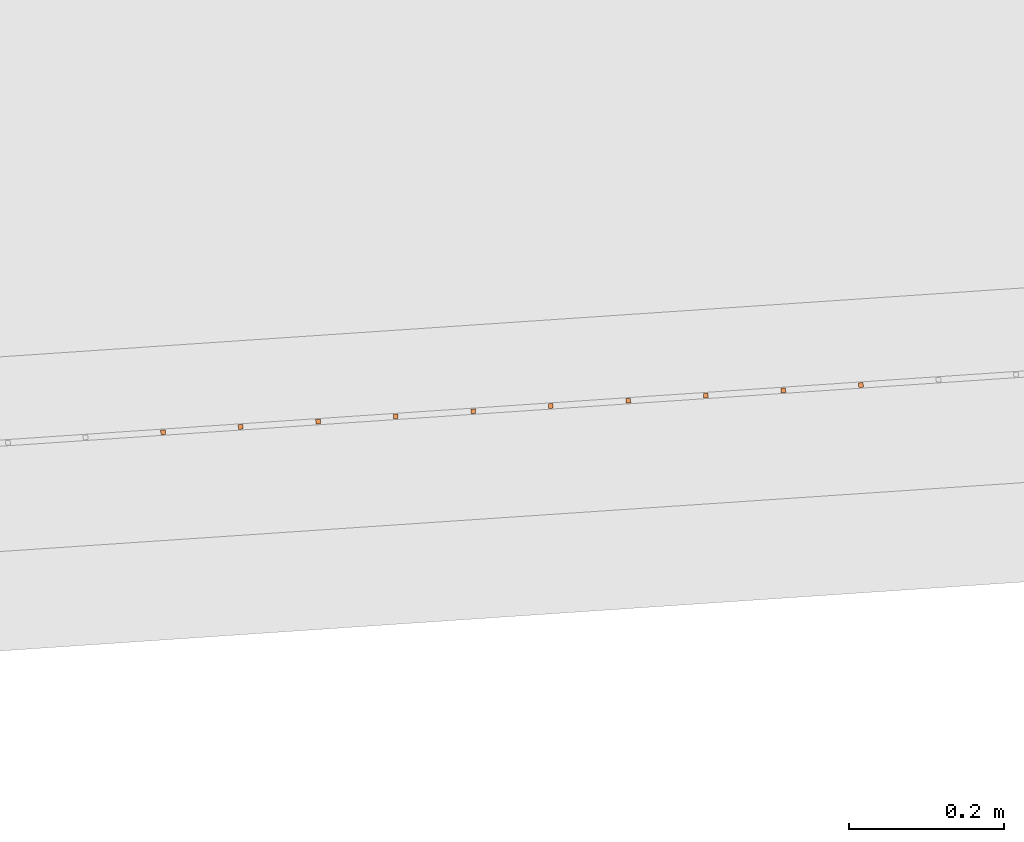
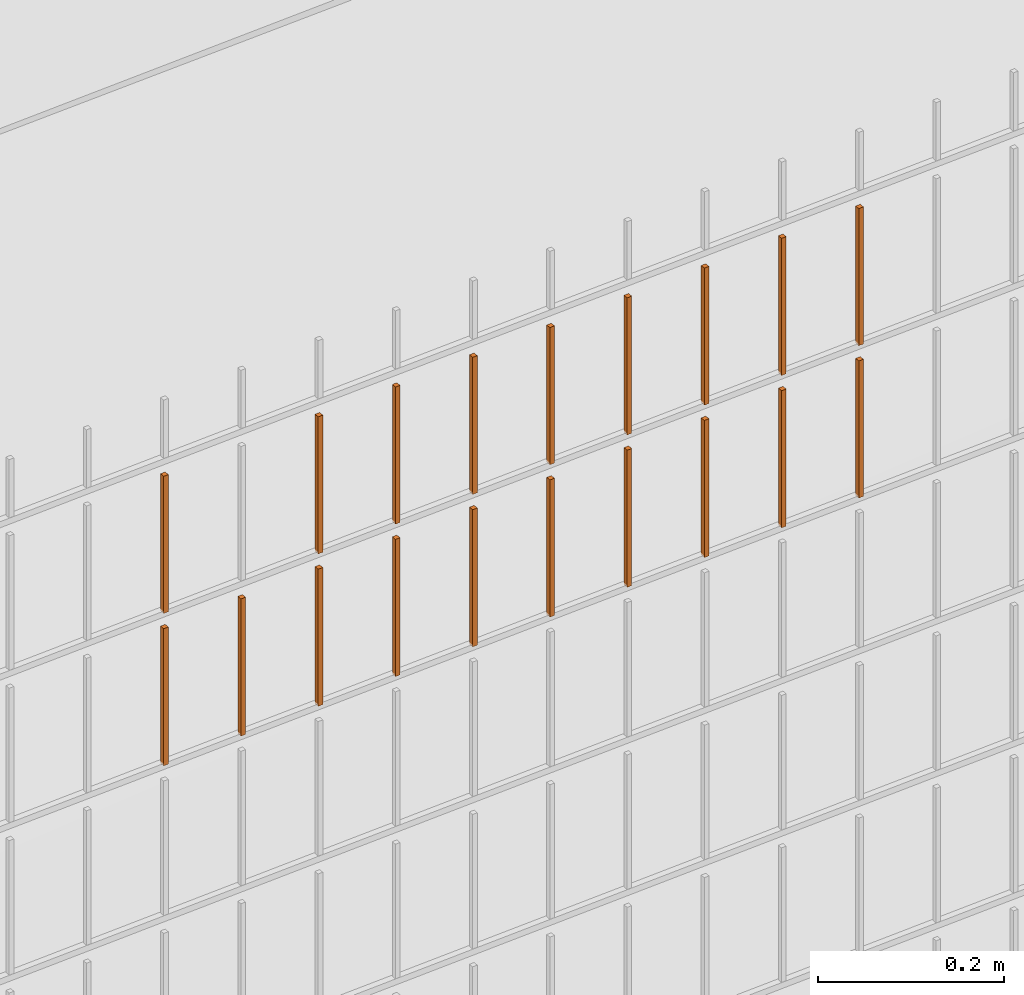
# One storey, part 201 of 1809: 19 proxies, 1 element without a shape of its own.
"""IFC2X3 building model written with IfcOpenShell, lengths in millimetres."""

from ifc_helpers import new_model, entity, si_unit, converted_unit, derived_unit, money_unit, direction, frame, origin_with_axes, place, context, subcontext, project, spatial, faceted_brep, source, transform, mapped, material, type_object, element, aggregate, save


model = new_model("IFC2X3")

# Units and contexts
model_context = context("Model", 3, precision=0.01, world=origin_with_axes(), true_north=direction((0.0, 1.0)))
body_context = subcontext(model_context, "Body", "Model", "MODEL_VIEW")
ifc_project = project(units=[si_unit("LENGTHUNIT", "METRE", prefix="MILLI"), si_unit("AREAUNIT", "SQUARE_METRE"), si_unit("VOLUMEUNIT", "CUBIC_METRE"), converted_unit("PLANEANGLEUNIT", "DEGREE", entity("IfcPlaneAngleMeasure", 0.0174532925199), si_unit("PLANEANGLEUNIT", "RADIAN"), dimensions=[0, 0, 0, 0, 0, 0, 0]), si_unit("SOLIDANGLEUNIT", "STERADIAN"), money_unit("EUR"), converted_unit("TIMEUNIT", "Year", entity("IfcTimeMeasure", 31556926.0), si_unit("TIMEUNIT", "SECOND"), dimensions=[0, 0, 1, 0, 0, 0, 0]), si_unit("MASSUNIT", "GRAM", prefix="KILO"), si_unit("THERMODYNAMICTEMPERATUREUNIT", "DEGREE_CELSIUS"), si_unit("LUMINOUSINTENSITYUNIT", "LUMEN"), si_unit("ENERGYUNIT", "JOULE", prefix="MEGA"), derived_unit("THERMALCONDUCTANCEUNIT", [(si_unit("POWERUNIT", "WATT"), 1), (si_unit("LENGTHUNIT", "METRE"), -1), (si_unit("THERMODYNAMICTEMPERATUREUNIT", "KELVIN"), -1)]), derived_unit("SPECIFICHEATCAPACITYUNIT", [(si_unit("ENERGYUNIT", "JOULE"), 1), (si_unit("MASSUNIT", "GRAM", prefix="KILO"), -1), (si_unit("THERMODYNAMICTEMPERATUREUNIT", "KELVIN"), -1)]), derived_unit("MASSDENSITYUNIT", [(si_unit("MASSUNIT", "GRAM", prefix="KILO"), 1), (si_unit("VOLUMEUNIT", "CUBIC_METRE"), -1)])], contexts=[model_context])

# Site, building, storey
site_placement = place(None, origin_with_axes())
site = spatial("IfcSite", under=ifc_project, at=site_placement, Name="Politse- ja Piirivalveameti ning Päästeameti ühishoone", CompositionType="ELEMENT")
building_placement = place(site_placement, origin_with_axes())
building = spatial("IfcBuilding", under=site, at=building_placement, Name="Politse- ja Piirivalveameti ning Päästeameti ühishoone", CompositionType="ELEMENT")
storey_placement = place(building_placement, origin_with_axes())
storey = spatial("IfcBuildingStorey", under=building, at=storey_placement, Name="Esimene korrus", CompositionType="ELEMENT", Elevation=0.0)

# Proxies
building_element_proxy_type_1 = type_object("IfcBuildingElementProxyType", Name="Railing Type", PredefinedType="NOTDEFINED")
proxy_1_placement = place(storey_placement, frame((89252.001212, -29183.4766571, 203.661247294), z_axis=(0.0, 0.0, 1.0), x_axis=(1.0, 0.0, 0.0)))
proxy_1 = element("IfcBuildingElementProxy", 1, at=proxy_1_placement, inside=storey, type_object=building_element_proxy_type_1, Name="PIIRDEAED")
ifc_material = material(Name="ET-03_Raud")
building_element_proxy_type_2 = type_object("IfcBuildingElementProxyType", Name="IfcBuildingElementProxy", PredefinedType="NOTDEFINED")
shared_shape_1 = source(origin_with_axes(), body_context, "Body", "Brep", [
    faceted_brep([(3.0, 3.0, -0.000752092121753), (-3.0, 3.0, -0.000752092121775), (-3.0, 3.0, 179.99926046), (3.0, 3.0, 179.99926046), (3.0, -3.0, 0.000752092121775), (-3.0, -3.0, 0.000752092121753), (-3.0, -3.0, 180.000764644), (3.0, -3.0, 180.000764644)], [[[0, 1, 2, 3]], [[0, 4, 5, 1]], [[1, 5, 6, 2]], [[3, 2, 6, 7]], [[4, 0, 3, 7]], [[5, 4, 7, 6]]]),
])
proxy_2_placement = place(proxy_1_placement, frame((-66076.1235966, -21760.9675483, 1610.63152875), z_axis=(0.0, 0.0, 1.0), x_axis=(1.0, 0.0, 0.0)))
proxy_2 = element("IfcBuildingElementProxy", 2, at=proxy_2_placement, type_object=building_element_proxy_type_2, material=ifc_material, Name="BALUSTER - 001", context=body_context, shape_type="MappedRepresentation", body=[
    mapped(shared_shape_1, transform((0.0, 0.0, 0.0), x_axis=(-0.0673926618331, 0.997726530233, 0.0), y_axis=(-0.997726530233, -0.0673926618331, 0.0), z_axis=(0.0, 0.0, 1.0))),
])
shared_shape_2 = source(origin_with_axes(), body_context, "Body", "Brep", [
    faceted_brep([(3.0, 3.0, -0.000752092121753), (-3.0, 3.0, -0.000752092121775), (-3.0, 3.0, 179.99926046), (3.0, 3.0, 179.99926046), (3.0, -3.0, 0.000752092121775), (-3.0, -3.0, 0.000752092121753), (-3.0, -3.0, 180.000764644), (3.0, -3.0, 180.000764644)], [[[0, 1, 2, 3]], [[0, 4, 5, 1]], [[1, 5, 6, 2]], [[3, 2, 6, 7]], [[4, 0, 3, 7]], [[5, 4, 7, 6]]]),
])
proxy_3_placement = place(proxy_1_placement, frame((-66076.1235966, -21760.9675483, 1810.63152875), z_axis=(0.0, 0.0, 1.0), x_axis=(1.0, 0.0, 0.0)))
proxy_3 = element("IfcBuildingElementProxy", 3, at=proxy_3_placement, type_object=building_element_proxy_type_2, material=ifc_material, Name="BALUSTER - 001", context=body_context, shape_type="MappedRepresentation", body=[
    mapped(shared_shape_2, transform((0.0, 0.0, 0.0), x_axis=(-0.0673926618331, 0.997726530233, 0.0), y_axis=(-0.997726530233, -0.0673926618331, 0.0), z_axis=(0.0, 0.0, 1.0))),
])
shared_shape_3 = source(origin_with_axes(), body_context, "Body", "Brep", [
    faceted_brep([(3.0, 3.0, -0.000752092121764), (-3.0, 3.0, -0.000752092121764), (-3.0, 3.0, 179.99926046), (3.0, 3.0, 179.99926046), (3.0, -3.0, 0.000752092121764), (-3.0, -3.0, 0.000752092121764), (-3.0, -3.0, 180.000764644), (3.0, -3.0, 180.000764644)], [[[0, 1, 2, 3]], [[0, 4, 5, 1]], [[1, 5, 6, 2]], [[3, 2, 6, 7]], [[4, 0, 3, 7]], [[5, 4, 7, 6]]]),
])
proxy_4_placement = place(proxy_1_placement, frame((-65178.1697194, -21700.3141526, 1810.85715639), z_axis=(0.0, 0.0, 1.0), x_axis=(1.0, 0.0, 0.0)))
proxy_4 = element("IfcBuildingElementProxy", 4, at=proxy_4_placement, type_object=building_element_proxy_type_2, material=ifc_material, Name="BALUSTER - 001", context=body_context, shape_type="MappedRepresentation", body=[
    mapped(shared_shape_3, transform((0.0, 0.0, 0.0), x_axis=(-0.0673926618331, 0.997726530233, 0.0), y_axis=(-0.997726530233, -0.0673926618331, 0.0), z_axis=(0.0, 0.0, 1.0))),
])
proxy_5_placement = place(proxy_1_placement, frame((-65776.8056375, -21740.7497497, 1810.70673797), z_axis=(0.0, 0.0, 1.0), x_axis=(1.0, 0.0, 0.0)))
proxy_5 = element("IfcBuildingElementProxy", 5, at=proxy_5_placement, type_object=building_element_proxy_type_2, material=ifc_material, Name="BALUSTER - 001", context=body_context, shape_type="MappedRepresentation", body=[
    mapped(shared_shape_3, transform((0.0, 0.0, 0.0), x_axis=(-0.0673926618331, 0.997726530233, 0.0), y_axis=(-0.997726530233, -0.0673926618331, 0.0), z_axis=(0.0, 0.0, 1.0))),
])
shared_shape_4 = source(origin_with_axes(), body_context, "Body", "Brep", [
    faceted_brep([(3.0, 3.0, -0.000752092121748), (-3.0, 3.0, -0.00075209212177), (-3.0, 3.0, 179.99926046), (3.0, 3.0, 179.99926046), (3.0, -3.0, 0.00075209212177), (-3.0, -3.0, 0.000752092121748), (-3.0, -3.0, 180.000764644), (3.0, -3.0, 180.000764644)], [[[0, 1, 2, 3]], [[0, 4, 5, 1]], [[1, 5, 6, 2]], [[3, 2, 6, 7]], [[4, 0, 3, 7]], [[5, 4, 7, 6]]]),
])
proxy_6_placement = place(proxy_1_placement, frame((-65377.7150255, -21713.792685, 1810.80701691), z_axis=(0.0, 0.0, 1.0), x_axis=(1.0, 0.0, 0.0)))
proxy_6 = element("IfcBuildingElementProxy", 6, at=proxy_6_placement, type_object=building_element_proxy_type_2, material=ifc_material, Name="BALUSTER - 001", context=body_context, shape_type="MappedRepresentation", body=[
    mapped(shared_shape_4, transform((0.0, 0.0, 0.0), x_axis=(-0.0673926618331, 0.997726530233, 0.0), y_axis=(-0.997726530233, -0.0673926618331, 0.0), z_axis=(0.0, 0.0, 1.0))),
])
proxy_7_placement = place(proxy_1_placement, frame((-65577.2603315, -21727.2712173, 1810.75687744), z_axis=(0.0, 0.0, 1.0), x_axis=(1.0, 0.0, 0.0)))
proxy_7 = element("IfcBuildingElementProxy", 7, at=proxy_7_placement, type_object=building_element_proxy_type_2, material=ifc_material, Name="BALUSTER - 001", context=body_context, shape_type="MappedRepresentation", body=[
    mapped(shared_shape_4, transform((0.0, 0.0, 0.0), x_axis=(-0.0673926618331, 0.997726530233, 0.0), y_axis=(-0.997726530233, -0.0673926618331, 0.0), z_axis=(0.0, 0.0, 1.0))),
])
shared_shape_5 = source(origin_with_axes(), body_context, "Body", "Brep", [
    faceted_brep([(3.0, 3.0, -0.000752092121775), (-3.0, 3.0, -0.000752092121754), (-3.0, 3.0, 179.99926046), (3.0, 3.0, 179.99926046), (3.0, -3.0, 0.000752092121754), (-3.0, -3.0, 0.000752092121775), (-3.0, -3.0, 180.000764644), (3.0, -3.0, 180.000764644)], [[[0, 1, 2, 3]], [[0, 4, 5, 1]], [[1, 5, 6, 2]], [[3, 2, 6, 7]], [[4, 0, 3, 7]], [[5, 4, 7, 6]]]),
])
proxy_8_placement = place(proxy_1_placement, frame((-65876.5782906, -21747.4890159, 1810.68166823), z_axis=(0.0, 0.0, 1.0), x_axis=(1.0, 0.0, 0.0)))
proxy_8 = element("IfcBuildingElementProxy", 8, at=proxy_8_placement, type_object=building_element_proxy_type_2, material=ifc_material, Name="BALUSTER - 001", context=body_context, shape_type="MappedRepresentation", body=[
    mapped(shared_shape_5, transform((0.0, 0.0, 0.0), x_axis=(-0.0673926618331, 0.997726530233, 0.0), y_axis=(-0.997726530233, -0.0673926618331, 0.0), z_axis=(0.0, 0.0, 1.0))),
])
shared_shape_6 = source(origin_with_axes(), body_context, "Body", "Brep", [
    faceted_brep([(3.0, 3.0, -0.000752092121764), (-3.0, 3.0, -0.000752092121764), (-3.0, 3.0, 179.99926046), (3.0, 3.0, 179.99926046), (3.0, -3.0, 0.000752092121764), (-3.0, -3.0, 0.000752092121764), (-3.0, -3.0, 180.000764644), (3.0, -3.0, 180.000764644)], [[[0, 1, 2, 3]], [[0, 4, 5, 1]], [[1, 5, 6, 2]], [[3, 2, 6, 7]], [[4, 0, 3, 7]], [[5, 4, 7, 6]]]),
])
proxy_9_placement = place(proxy_1_placement, frame((-65178.1697194, -21700.3141526, 1610.85715639), z_axis=(0.0, 0.0, 1.0), x_axis=(1.0, 0.0, 0.0)))
proxy_9 = element("IfcBuildingElementProxy", 9, at=proxy_9_placement, type_object=building_element_proxy_type_2, material=ifc_material, Name="BALUSTER - 001", context=body_context, shape_type="MappedRepresentation", body=[
    mapped(shared_shape_6, transform((0.0, 0.0, 0.0), x_axis=(-0.0673926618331, 0.997726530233, 0.0), y_axis=(-0.997726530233, -0.0673926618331, 0.0), z_axis=(0.0, 0.0, 1.0))),
])
proxy_10_placement = place(proxy_1_placement, frame((-65776.8056375, -21740.7497497, 1610.70673797), z_axis=(0.0, 0.0, 1.0), x_axis=(1.0, 0.0, 0.0)))
proxy_10 = element("IfcBuildingElementProxy", 10, at=proxy_10_placement, type_object=building_element_proxy_type_2, material=ifc_material, Name="BALUSTER - 001", context=body_context, shape_type="MappedRepresentation", body=[
    mapped(shared_shape_6, transform((0.0, 0.0, 0.0), x_axis=(-0.0673926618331, 0.997726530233, 0.0), y_axis=(-0.997726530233, -0.0673926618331, 0.0), z_axis=(0.0, 0.0, 1.0))),
])
shared_shape_7 = source(origin_with_axes(), body_context, "Body", "Brep", [
    faceted_brep([(3.0, 3.0, -0.000752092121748), (-3.0, 3.0, -0.00075209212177), (-3.0, 3.0, 179.99926046), (3.0, 3.0, 179.99926046), (3.0, -3.0, 0.00075209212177), (-3.0, -3.0, 0.000752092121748), (-3.0, -3.0, 180.000764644), (3.0, -3.0, 180.000764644)], [[[0, 1, 2, 3]], [[0, 4, 5, 1]], [[1, 5, 6, 2]], [[3, 2, 6, 7]], [[4, 0, 3, 7]], [[5, 4, 7, 6]]]),
])
proxy_11_placement = place(proxy_1_placement, frame((-65377.7150255, -21713.792685, 1610.80701691), z_axis=(0.0, 0.0, 1.0), x_axis=(1.0, 0.0, 0.0)))
proxy_11 = element("IfcBuildingElementProxy", 11, at=proxy_11_placement, type_object=building_element_proxy_type_2, material=ifc_material, Name="BALUSTER - 001", context=body_context, shape_type="MappedRepresentation", body=[
    mapped(shared_shape_7, transform((0.0, 0.0, 0.0), x_axis=(-0.0673926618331, 0.997726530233, 0.0), y_axis=(-0.997726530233, -0.0673926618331, 0.0), z_axis=(0.0, 0.0, 1.0))),
])
shared_shape_8 = source(origin_with_axes(), body_context, "Body", "Brep", [
    faceted_brep([(3.0, 3.0, -0.000752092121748), (-3.0, 3.0, -0.00075209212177), (-3.0, 3.0, 179.99926046), (3.0, 3.0, 179.99926046), (3.0, -3.0, 0.00075209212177), (-3.0, -3.0, 0.000752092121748), (-3.0, -3.0, 180.000764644), (3.0, -3.0, 180.000764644)], [[[0, 1, 2, 3]], [[0, 4, 5, 1]], [[1, 5, 6, 2]], [[3, 2, 6, 7]], [[4, 0, 3, 7]], [[5, 4, 7, 6]]]),
])
proxy_12_placement = place(proxy_1_placement, frame((-65577.2603315, -21727.2712173, 1610.75687744), z_axis=(0.0, 0.0, 1.0), x_axis=(1.0, 0.0, 0.0)))
proxy_12 = element("IfcBuildingElementProxy", 12, at=proxy_12_placement, type_object=building_element_proxy_type_2, material=ifc_material, Name="BALUSTER - 001", context=body_context, shape_type="MappedRepresentation", body=[
    mapped(shared_shape_8, transform((0.0, 0.0, 0.0), x_axis=(-0.0673926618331, 0.997726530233, 0.0), y_axis=(-0.997726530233, -0.0673926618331, 0.0), z_axis=(0.0, 0.0, 1.0))),
])
proxy_13_placement = place(proxy_1_placement, frame((-65976.3509436, -21754.2282821, 1610.65659849), z_axis=(0.0, 0.0, 1.0), x_axis=(1.0, 0.0, 0.0)))
proxy_13 = element("IfcBuildingElementProxy", 13, at=proxy_13_placement, type_object=building_element_proxy_type_2, material=ifc_material, Name="BALUSTER - 001", context=body_context, shape_type="MappedRepresentation", body=[
    mapped(shared_shape_8, transform((0.0, 0.0, 0.0), x_axis=(-0.0673926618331, 0.997726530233, 0.0), y_axis=(-0.997726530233, -0.0673926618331, 0.0), z_axis=(0.0, 0.0, 1.0))),
])
shared_shape_9 = source(origin_with_axes(), body_context, "Body", "Brep", [
    faceted_brep([(3.0, 3.0, -0.000752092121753), (-3.0, 3.0, -0.000752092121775), (-3.0, 3.0, 179.99926046), (3.0, 3.0, 179.99926046), (3.0, -3.0, 0.000752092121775), (-3.0, -3.0, 0.000752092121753), (-3.0, -3.0, 180.000764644), (3.0, -3.0, 180.000764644)], [[[0, 1, 2, 3]], [[0, 4, 5, 1]], [[1, 5, 6, 2]], [[3, 2, 6, 7]], [[4, 0, 3, 7]], [[5, 4, 7, 6]]]),
])
proxy_14_placement = place(proxy_1_placement, frame((-65677.0329845, -21734.0104835, 1810.7318077), z_axis=(0.0, 0.0, 1.0), x_axis=(1.0, 0.0, 0.0)))
proxy_14 = element("IfcBuildingElementProxy", 14, at=proxy_14_placement, type_object=building_element_proxy_type_2, material=ifc_material, Name="BALUSTER - 001", context=body_context, shape_type="MappedRepresentation", body=[
    mapped(shared_shape_9, transform((0.0, 0.0, 0.0), x_axis=(-0.0673926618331, 0.997726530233, 0.0), y_axis=(-0.997726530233, -0.0673926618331, 0.0), z_axis=(0.0, 0.0, 1.0))),
])
shared_shape_10 = source(origin_with_axes(), body_context, "Body", "Brep", [
    faceted_brep([(3.0, 3.0, -0.000752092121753), (-3.0, 3.0, -0.000752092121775), (-3.0, 3.0, 179.99926046), (3.0, 3.0, 179.99926046), (3.0, -3.0, 0.000752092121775), (-3.0, -3.0, 0.000752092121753), (-3.0, -3.0, 180.000764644), (3.0, -3.0, 180.000764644)], [[[0, 1, 2, 3]], [[0, 4, 5, 1]], [[1, 5, 6, 2]], [[3, 2, 6, 7]], [[4, 0, 3, 7]], [[5, 4, 7, 6]]]),
])
proxy_15_placement = place(proxy_1_placement, frame((-65677.0329845, -21734.0104835, 1610.7318077), z_axis=(0.0, 0.0, 1.0), x_axis=(1.0, 0.0, 0.0)))
proxy_15 = element("IfcBuildingElementProxy", 15, at=proxy_15_placement, type_object=building_element_proxy_type_2, material=ifc_material, Name="BALUSTER - 001", context=body_context, shape_type="MappedRepresentation", body=[
    mapped(shared_shape_10, transform((0.0, 0.0, 0.0), x_axis=(-0.0673926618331, 0.997726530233, 0.0), y_axis=(-0.997726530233, -0.0673926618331, 0.0), z_axis=(0.0, 0.0, 1.0))),
])
shared_shape_11 = source(origin_with_axes(), body_context, "Body", "Brep", [
    faceted_brep([(3.0, 3.0, -0.000752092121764), (-3.0, 3.0, -0.000752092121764), (-3.0, 3.0, 179.99926046), (3.0, 3.0, 179.99926046), (3.0, -3.0, 0.000752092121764), (-3.0, -3.0, 0.000752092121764), (-3.0, -3.0, 180.000764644), (3.0, -3.0, 180.000764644)], [[[0, 1, 2, 3]], [[0, 4, 5, 1]], [[1, 5, 6, 2]], [[3, 2, 6, 7]], [[4, 0, 3, 7]], [[5, 4, 7, 6]]]),
])
proxy_16_placement = place(proxy_1_placement, frame((-65277.9423724, -21707.0534188, 1610.83208665), z_axis=(0.0, 0.0, 1.0), x_axis=(1.0, 0.0, 0.0)))
proxy_16 = element("IfcBuildingElementProxy", 16, at=proxy_16_placement, type_object=building_element_proxy_type_2, material=ifc_material, Name="BALUSTER - 001", context=body_context, shape_type="MappedRepresentation", body=[
    mapped(shared_shape_11, transform((0.0, 0.0, 0.0), x_axis=(-0.0673926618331, 0.997726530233, 0.0), y_axis=(-0.997726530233, -0.0673926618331, 0.0), z_axis=(0.0, 0.0, 1.0))),
])
shared_shape_12 = source(origin_with_axes(), body_context, "Body", "Brep", [
    faceted_brep([(3.0, 3.0, -0.000752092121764), (-3.0, 3.0, -0.000752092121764), (-3.0, 3.0, 179.99926046), (3.0, 3.0, 179.99926046), (3.0, -3.0, 0.000752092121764), (-3.0, -3.0, 0.000752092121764), (-3.0, -3.0, 180.000764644), (3.0, -3.0, 180.000764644)], [[[0, 1, 2, 3]], [[0, 4, 5, 1]], [[1, 5, 6, 2]], [[3, 2, 6, 7]], [[4, 0, 3, 7]], [[5, 4, 7, 6]]]),
])
proxy_17_placement = place(proxy_1_placement, frame((-65277.9423724, -21707.0534188, 1810.83208665), z_axis=(0.0, 0.0, 1.0), x_axis=(1.0, 0.0, 0.0)))
proxy_17 = element("IfcBuildingElementProxy", 17, at=proxy_17_placement, type_object=building_element_proxy_type_2, material=ifc_material, Name="BALUSTER - 001", context=body_context, shape_type="MappedRepresentation", body=[
    mapped(shared_shape_12, transform((0.0, 0.0, 0.0), x_axis=(-0.0673926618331, 0.997726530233, 0.0), y_axis=(-0.997726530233, -0.0673926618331, 0.0), z_axis=(0.0, 0.0, 1.0))),
])
shared_shape_13 = source(origin_with_axes(), body_context, "Body", "Brep", [
    faceted_brep([(3.0, 3.0, -0.000752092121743), (-3.0, 3.0, -0.000752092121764), (-3.0, 3.0, 179.99926046), (3.0, 3.0, 179.99926046), (3.0, -3.0, 0.000752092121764), (-3.0, -3.0, 0.000752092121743), (-3.0, -3.0, 180.000764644), (3.0, -3.0, 180.000764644)], [[[0, 1, 2, 3]], [[0, 4, 5, 1]], [[1, 5, 6, 2]], [[3, 2, 6, 7]], [[4, 0, 3, 7]], [[5, 4, 7, 6]]]),
])
proxy_18_placement = place(proxy_1_placement, frame((-65477.4876785, -21720.5319512, 1610.78194718), z_axis=(0.0, 0.0, 1.0), x_axis=(1.0, 0.0, 0.0)))
proxy_18 = element("IfcBuildingElementProxy", 18, at=proxy_18_placement, type_object=building_element_proxy_type_2, material=ifc_material, Name="BALUSTER - 001", context=body_context, shape_type="MappedRepresentation", body=[
    mapped(shared_shape_13, transform((0.0, 0.0, 0.0), x_axis=(-0.0673926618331, 0.997726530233, 0.0), y_axis=(-0.997726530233, -0.0673926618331, 0.0), z_axis=(0.0, 0.0, 1.0))),
])
shared_shape_14 = source(origin_with_axes(), body_context, "Body", "Brep", [
    faceted_brep([(3.0, 3.0, -0.000752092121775), (-3.0, 3.0, -0.000752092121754), (-3.0, 3.0, 179.99926046), (3.0, 3.0, 179.99926046), (3.0, -3.0, 0.000752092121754), (-3.0, -3.0, 0.000752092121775), (-3.0, -3.0, 180.000764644), (3.0, -3.0, 180.000764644)], [[[0, 1, 2, 3]], [[0, 4, 5, 1]], [[1, 5, 6, 2]], [[3, 2, 6, 7]], [[4, 0, 3, 7]], [[5, 4, 7, 6]]]),
])
proxy_19_placement = place(proxy_1_placement, frame((-65876.5782906, -21747.4890159, 1610.68166823), z_axis=(0.0, 0.0, 1.0), x_axis=(1.0, 0.0, 0.0)))
proxy_19 = element("IfcBuildingElementProxy", 19, at=proxy_19_placement, type_object=building_element_proxy_type_2, material=ifc_material, Name="BALUSTER - 001", context=body_context, shape_type="MappedRepresentation", body=[
    mapped(shared_shape_14, transform((0.0, 0.0, 0.0), x_axis=(-0.0673926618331, 0.997726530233, 0.0), y_axis=(-0.997726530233, -0.0673926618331, 0.0), z_axis=(0.0, 0.0, 1.0))),
])
shared_shape_15 = source(origin_with_axes(), body_context, "Body", "Brep", [
    faceted_brep([(3.0, 3.0, -0.000752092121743), (-3.0, 3.0, -0.000752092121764), (-3.0, 3.0, 179.99926046), (3.0, 3.0, 179.99926046), (3.0, -3.0, 0.000752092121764), (-3.0, -3.0, 0.000752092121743), (-3.0, -3.0, 180.000764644), (3.0, -3.0, 180.000764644)], [[[0, 1, 2, 3]], [[0, 4, 5, 1]], [[1, 5, 6, 2]], [[3, 2, 6, 7]], [[4, 0, 3, 7]], [[5, 4, 7, 6]]]),
])
proxy_20_placement = place(proxy_1_placement, frame((-65477.4876785, -21720.5319512, 1810.78194718), z_axis=(0.0, 0.0, 1.0), x_axis=(1.0, 0.0, 0.0)))
proxy_20 = element("IfcBuildingElementProxy", 20, at=proxy_20_placement, type_object=building_element_proxy_type_2, material=ifc_material, Name="BALUSTER - 001", context=body_context, shape_type="MappedRepresentation", body=[
    mapped(shared_shape_15, transform((0.0, 0.0, 0.0), x_axis=(-0.0673926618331, 0.997726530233, 0.0), y_axis=(-0.997726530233, -0.0673926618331, 0.0), z_axis=(0.0, 0.0, 1.0))),
])
aggregate(proxy_1, [proxy_9, proxy_16, proxy_11, proxy_18, proxy_12, proxy_15, proxy_10, proxy_19, proxy_13, proxy_2, proxy_4, proxy_17, proxy_6, proxy_20, proxy_7, proxy_14, proxy_5, proxy_8, proxy_3])

save(model, "model.ifc")
